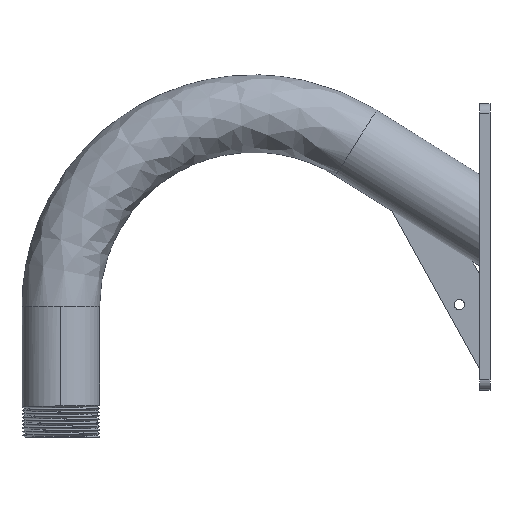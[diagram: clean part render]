
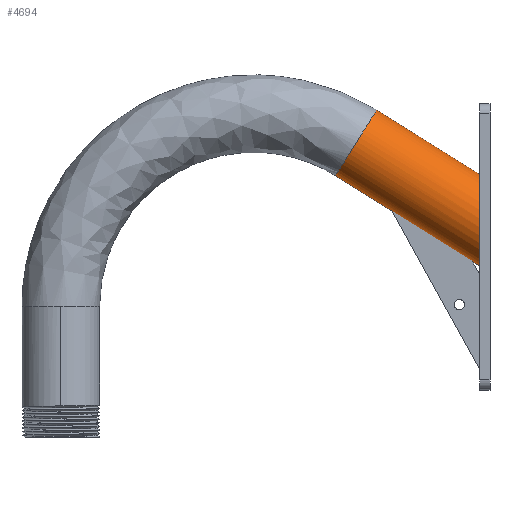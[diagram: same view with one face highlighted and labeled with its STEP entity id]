
A CAD part, top view. The second image highlights one B-rep face of the part: STEP entity #4694.
In plain terms, the highlighted cylindrical face has radius 24.079 mm (diameter 48.158 mm), a partial arc.
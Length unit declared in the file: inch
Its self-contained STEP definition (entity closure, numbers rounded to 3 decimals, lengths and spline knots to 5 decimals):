
#18 = ORIENTED_EDGE ( 'NONE', *, *, #671, .F. ) ;
#255 = ORIENTED_EDGE ( 'NONE', *, *, #6572, .T. ) ;
#287 = CARTESIAN_POINT ( 'NONE',  ( -3.77732, 6.39096, 0. ) ) ;
#351 = DIRECTION ( 'NONE',  ( 0.848, -0.53, 0. ) ) ;
#386 = VERTEX_POINT ( 'NONE', #1648 ) ;
#671 = EDGE_CURVE ( 'NONE', #9041, #7763, #8639, .T. ) ;
#716 = DIRECTION ( 'NONE',  ( 0.848, -0.53, 0. ) ) ;
#949 = CARTESIAN_POINT ( 'NONE',  ( -2.77259, 7.99886, 0. ) ) ;
#1036 = CARTESIAN_POINT ( 'NONE',  ( -2.77259, 7.99886, 0.07942 ) ) ;
#1345 = CARTESIAN_POINT ( 'NONE',  ( 0., 4.03063, 0. ) ) ;
#1420 = CARTESIAN_POINT ( 'NONE',  ( -2.77259, 7.99886, 0. ) ) ;
#1485 = CARTESIAN_POINT ( 'NONE',  ( -3.77732, 6.39096, 0. ) ) ;
#1555 = CARTESIAN_POINT ( 'NONE',  ( -2.99681, 7.64003, 0.80825 ) ) ;
#1648 = CARTESIAN_POINT ( 'NONE',  ( -3.77732, 6.39096, 0. ) ) ;
#1832 = B_SPLINE_CURVE_WITH_KNOTS ( 'NONE', 5,
 ( #287, #6692, #3093, #3045, #5845, #5941, #7290, #5891, #2941, #3766, #8075, #8679, #4467, #1555, #2248, #2350, #5145, #4512, #7335, #1036, #949 ),
 .UNSPECIFIED., .F., .F.,
 ( 6, 3, 3, 3, 3, 3, 6 ),
 ( 0., 0.13333, 0.31667, 0.5, 0.68333, 0.86667, 1. ),
 .UNSPECIFIED. ) ;
#1891 = DIRECTION ( 'NONE',  ( 0.53, 0.848, 0. ) ) ;
#2208 = EDGE_CURVE ( 'NONE', #386, #9041, #1832, .T. ) ;
#2224 = LINE ( 'NONE', #1485, #8028 ) ;
#2248 = CARTESIAN_POINT ( 'NONE',  ( -2.90882, 7.78084, 0.66292 ) ) ;
#2350 = CARTESIAN_POINT ( 'NONE',  ( -2.87071, 7.84184, 0.57871 ) ) ;
#2462 = FACE_OUTER_BOUND ( 'NONE', #3008, .T. ) ;
#2797 = CARTESIAN_POINT ( 'NONE',  ( 0., 6.26635, 0. ) ) ;
#2941 = CARTESIAN_POINT ( 'NONE',  ( -3.44696, 6.91964, 0.90082 ) ) ;
#3008 = EDGE_LOOP ( 'NONE', ( #7053, #6865, #255, #18 ) ) ;
#3045 = CARTESIAN_POINT ( 'NONE',  ( -3.7641, 6.41212, 0.2371 ) ) ;
#3093 = CARTESIAN_POINT ( 'NONE',  ( -3.77291, 6.39801, 0.15884 ) ) ;
#3125 = VECTOR ( 'NONE', #716, 39.37008 ) ;
#3397 = CARTESIAN_POINT ( 'NONE',  ( 0., 4.03063, 0. ) ) ;
#3766 = CARTESIAN_POINT ( 'NONE',  ( -3.39069, 7.00969, 0.93228 ) ) ;
#4023 = AXIS2_PLACEMENT_3D ( 'NONE', #6106, #351, #1891 ) ;
#4467 = CARTESIAN_POINT ( 'NONE',  ( -3.10295, 7.47017, 0.90082 ) ) ;
#4512 = CARTESIAN_POINT ( 'NONE',  ( -2.78581, 7.9777, 0.2371 ) ) ;
#4694 = ADVANCED_FACE ( 'NONE', ( #2462 ), #6796, .T. ) ;
#5026 = DIRECTION ( 'NONE',  ( 0.848, -0.53, 0. ) ) ;
#5145 = CARTESIAN_POINT ( 'NONE',  ( -2.81691, 7.92794, 0.41744 ) ) ;
#5699 = EDGE_CURVE ( 'NONE', #386, #7150, #2224, .T. ) ;
#5845 = CARTESIAN_POINT ( 'NONE',  ( -3.733, 6.46188, 0.41744 ) ) ;
#5891 = CARTESIAN_POINT ( 'NONE',  ( -3.5531, 6.74978, 0.80825 ) ) ;
#5941 = CARTESIAN_POINT ( 'NONE',  ( -3.6792, 6.54798, 0.57871 ) ) ;
#6106 = CARTESIAN_POINT ( 'NONE',  ( -3.27496, 7.19491, 0. ) ) ;
#6219 = CARTESIAN_POINT ( 'NONE',  ( 0., 4.03063, 1.896 ) ) ;
#6572 = EDGE_CURVE ( 'NONE', #7150, #7763, #7281, .T. ) ;
#6692 = CARTESIAN_POINT ( 'NONE',  ( -3.77732, 6.39096, 0.07942 ) ) ;
#6714 = CARTESIAN_POINT ( 'NONE',  ( 0., 6.26635, 0. ) ) ;
#6796 = CYLINDRICAL_SURFACE ( 'NONE', #4023, 0.948 ) ;
#6865 = ORIENTED_EDGE ( 'NONE', *, *, #5699, .T. ) ;
#7053 = ORIENTED_EDGE ( 'NONE', *, *, #2208, .F. ) ;
#7150 = VERTEX_POINT ( 'NONE', #1345 ) ;
#7281 =( BOUNDED_CURVE ( )  B_SPLINE_CURVE ( 3, ( #3397, #6219, #9131, #2797 ),
 .UNSPECIFIED., .F., .T. ) 
 B_SPLINE_CURVE_WITH_KNOTS ( ( 4, 4 ),
 ( 0., 3.14159 ),
 .UNSPECIFIED. ) 
 CURVE ( )  GEOMETRIC_REPRESENTATION_ITEM ( )  RATIONAL_B_SPLINE_CURVE ( ( 1., 0.333, 0.333, 1. ) ) 
 REPRESENTATION_ITEM ( '' )  );
#7290 = CARTESIAN_POINT ( 'NONE',  ( -3.64109, 6.60897, 0.66292 ) ) ;
#7335 = CARTESIAN_POINT ( 'NONE',  ( -2.777, 7.9918, 0.15884 ) ) ;
#7763 = VERTEX_POINT ( 'NONE', #6714 ) ;
#8028 = VECTOR ( 'NONE', #5026, 39.37008 ) ;
#8075 = CARTESIAN_POINT ( 'NONE',  ( -3.27496, 7.19491, 0.96372 ) ) ;
#8639 = LINE ( 'NONE', #1420, #3125 ) ;
#8679 = CARTESIAN_POINT ( 'NONE',  ( -3.15922, 7.38012, 0.93228 ) ) ;
#8891 = CARTESIAN_POINT ( 'NONE',  ( -2.77259, 7.99886, 0. ) ) ;
#9041 = VERTEX_POINT ( 'NONE', #8891 ) ;
#9131 = CARTESIAN_POINT ( 'NONE',  ( 0., 6.26635, 1.896 ) ) ;
